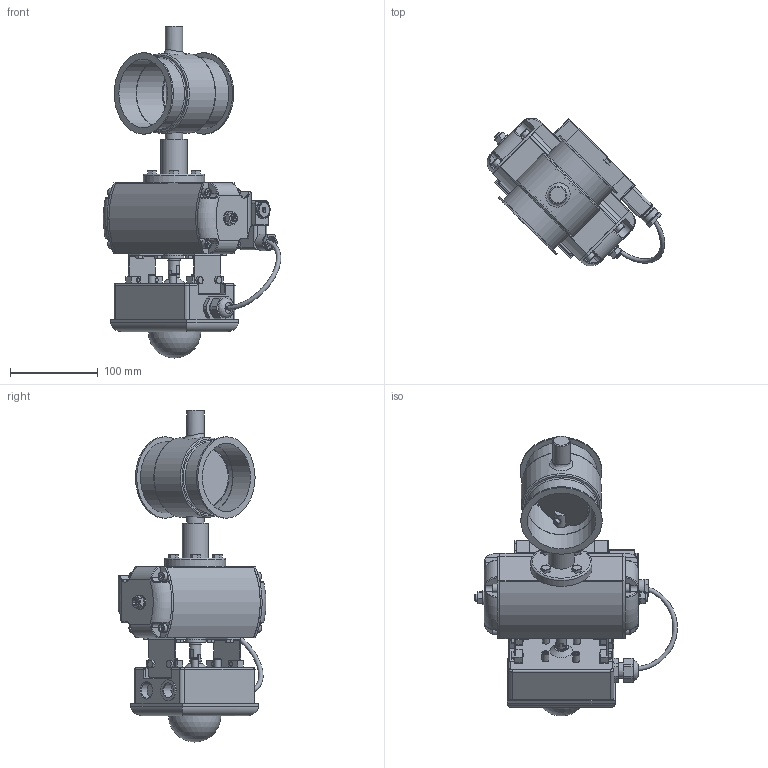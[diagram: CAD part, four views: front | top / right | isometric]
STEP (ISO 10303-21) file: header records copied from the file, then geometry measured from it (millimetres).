
FILE_DESCRIPTION((''),'2;1');
FILE_NAME('U:\Wolfgang\Marcel-3D\fertig\Kapitel 8\0821212.stp','2011-05-03T15:07:38',('TK1'),(''),'Autodesk Inventor 2010','Autodesk Inventor 2010','');
FILE_SCHEMA(('AUTOMOTIVE_DESIGN { 1 0 10303 214 1 1 1 1 }'));
Length unit declared in the file: millimetre
Products named in the file (40): 0821212; BuchseD15 70-50; Bolzen D15; Scheibe80b; DIN 6912 M6 x 16; DIN EN ISO 4018 M6x25; 0811076; Pneumatischer SchwenkantriebS63D-2; Body; roter Verschluss; A1 Schwenkantrieb; Body S063D; End Cap L; End Cap R; DIN EN ISO 4762 M6 x 12; DIN EN ISO 4018 M5x10; DIN 916 M8  x  40; DIN 555 - ersetzt durch DIN EN 24034 M8; DIN 125-1 A A 8,4; DIN 125-1 A A 13; A1 Ventileinheit-2; Ventil1; Ventil1a; Ventil1b; Ventil1a_1; Ventil1b_1; ISO 7046-1 Z M4 x 25 - 4.8 - Z; Ventil1c; Ventil1d; ISO 7047 (H) M3x8 - 4.8 - H; DIN 7984 M6 x 40; DIN EN ISO 7042 M8; Ventil1e; Ventil1f; DIN EN 24766 M6 x 30; DIN 439-2 - ersetzt durch DIN EN 24035/28675 M6; entlüftung; Halterung; Deckel2; Schlauch 1
Assembly tree (78 placements, depth 4):
  0821212
    BuchseD15 70-50
    Bolzen D15  x2
    Scheibe80b
    DIN 6912 M6 x 16  x2
    DIN EN ISO 4018 M6x25  x4
    0811076
    Pneumatischer SchwenkantriebS63D-2
      Body
      roter Verschluss
      A1 Schwenkantrieb
        Body S063D
        End Cap L
        End Cap R
        DIN EN ISO 4762 M6 x 12  x8
        DIN EN ISO 4018 M5x10  x4
        DIN 916 M8  x  40  x2
        DIN 555 - ersetzt durch DIN EN 24034 M8  x2
        DIN 125-1 A A 8,4  x2
        DIN 125-1 A A 13  x2
      A1 Ventileinheit-2
        Ventil1
        Ventil1a
        Ventil1b
        Ventil1a_1
        Ventil1b_1
        ISO 7046-1 Z M4 x 25 - 4.8 - Z  x8
        Ventil1c
        Ventil1d
        ISO 7047 (H) M3x8 - 4.8 - H
        DIN 7984 M6 x 40  x2
        DIN EN ISO 7042 M8  x2
        DIN 125-1 A A 8,4  x2
        Ventil1e  x2
        Ventil1f  x2
        DIN EN 24766 M6 x 30  x2
        DIN 439-2 - ersetzt durch DIN EN 24035/28675 M6  x2
        entlüftung
      Halterung  x2
      DIN EN ISO 4018 M5x10  x4
      Deckel2
      Schlauch 1
Bounding box: 202.69 x 168.87 x 379 mm (x, y, z)
Volume: 1634963.5 mm3; surface area: 384917.8 mm2
Topology: 78 solids, 79 shells, 1695 faces, 3993 edges, 2534 vertices
Faces by surface type: plane 824, cylinder 334, cone 302, bspline 150, torus 77, sphere 8
Full cylindrical faces by diameter (mm): 2.5 x1, 3 x3, 3.242 x8, 3.571 x8, 4 x8, 4.917 x4, 5 x10, 5.5 x1, 6 x24, 6.647 x1, 8 x6, 8.4 x12, 10 x14, 11.63 x6, 11.9 x2, 12 x1, 12.5 x1, 13 x7, 14 x3, 15 x7, 15.5 x1, 15.918 x1, 16 x5, 16.918 x1, 17 x3, 17.79 x2, 18 x3, 19 x2, 20 x2, 22 x1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
Entity records: 31075 total; most frequent: CARTESIAN_POINT 8601, DIRECTION 4515, ORIENTED_EDGE 3926, EDGE_CURVE 1963, AXIS2_PLACEMENT_3D 1792, EDGE_LOOP 1398, VERTEX_POINT 1384, FACE_OUTER_BOUND 975
